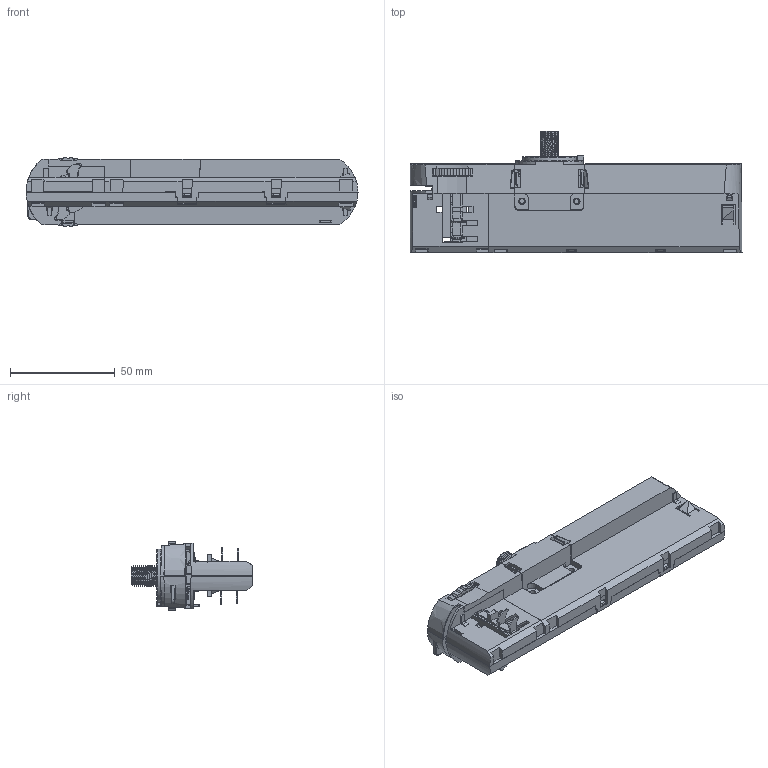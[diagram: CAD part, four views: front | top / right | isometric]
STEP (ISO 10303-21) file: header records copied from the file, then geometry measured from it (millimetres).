
FILE_DESCRIPTION((''),'2;1');
FILE_NAME('20230306_ASM','2023-08-11T16:49:01',('admin'),(''),'CREO PARAMETRIC BY PTC INC, 2019224','CREO PARAMETRIC BY PTC INC, 2019224','');
FILE_SCHEMA(('AUTOMOTIVE_DESIGN { 1 0 10303 214 1 1 1 1 }'));
Length unit declared in the file: millimetre
Products named in the file (37): DZ2-1_1_2_2_16; G_1_18_9; LJQZ_1; M10-WK_1; 7-J_12_13; 00-530_ASM_37_ASM; PCB-V3-20230329; XIAOTONGPIAN_2; ZHUANZHOUDATONGPIAN_2; ZHUANZHOUDANGPIAN_1; ZHUANZHOUGAI_13; ZHUANZHOUZU_ASM_3_ASM; BOMAXUANNIU_7; BOMATONGPIANA_4; B_6; BOMAGAI_9; BOMAZUJIAN_ASM_8_ASM; FUKE_24; SIXIANGUIDAOTOU_ASM_10_ASM; ZHUANZHOU_ASM; 8X2000; EQ2618_0001; _0001; _00; EQ26180001_ASM; 0001_31_1; ASM0001_ASM_3_ASM_1_1_ASM; 00_ASM_1_1_ASM; V200_ASM; 00; 0001_ASM; XK; PRT0003; 20230306_ASM
Assembly tree (50 placements, depth 5):
  20230306_ASM
    00-530_ASM_37_ASM
      DZ2-1_1_2_2_16  x2
      G_1_18_9
      LJQZ_1
      M10-WK_1
      7-J_12_13
    PCB-V3-20230329
    ZHUANZHOU_ASM
      SIXIANGUIDAOTOU_ASM_10_ASM
        ZHUANZHOUZU_ASM_3_ASM
          XIAOTONGPIAN_2  x2
          ZHUANZHOUDATONGPIAN_2  x2
          ZHUANZHOUDANGPIAN_1
          ZHUANZHOUGAI_13
        BOMAZUJIAN_ASM_8_ASM
          BOMAXUANNIU_7
          BOMATONGPIANA_4
          B_6
          BOMAGAI_9
        FUKE_24
    8X2000
    EQ26180001_ASM
      EQ2618_0001
      _0001  x2
      _00  x7
    V200_ASM
      00_ASM_1_1_ASM
        ASM0001_ASM_3_ASM_1_1_ASM
          0001_31_1
    0001_ASM
      00
      00  x2
      00  x4
    00
    XK
    PRT0003
Bounding box: 158.15 x 58.01 x 32.98 mm (x, y, z)
Volume: 60101.2 mm3; surface area: 90543 mm2
Topology: 40 solids, 40 shells, 3810 faces, 10646 edges, 6969 vertices
Faces by surface type: plane 2634, cylinder 908, bspline 124, torus 79, cone 29, extrusion 22, sphere 14
Entity records: 149304 total; most frequent: CARTESIAN_POINT 31523, ORIENTED_EDGE 19998, DIRECTION 17986, EDGE_CURVE 9999, VECTOR 7404, LINE 7382, VERTEX_POINT 6543, PRESENTATION_STYLE_ASSIGNMENT 6260
